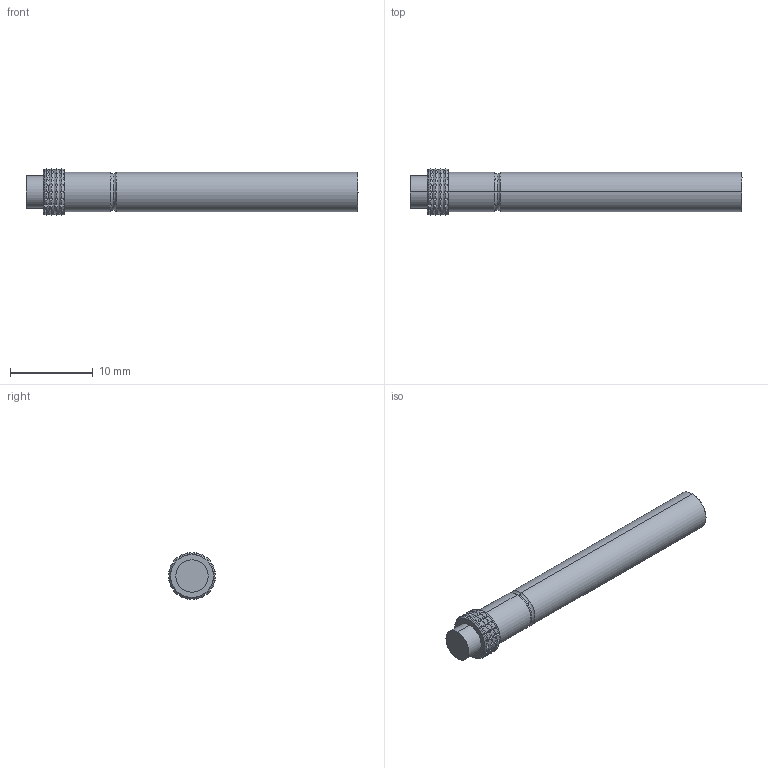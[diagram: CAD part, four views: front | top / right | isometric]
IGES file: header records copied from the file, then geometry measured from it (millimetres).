
Start section: SolidWorks IGES file using analytic representation for surfaces
Global section: file name: O:\PYLON\IGES FILES\P4301\P4301-1F REC'D.IGS; native system: SolidWorks 2015; preprocessor: SolidWorks 2015; author: kgolden; date: 171020.121422; units: inch
Bounding box: 40.21 x 5.7 x 5.7 mm (x, y, z)
Surface area: 1161.4 mm2 (no closed solid volume)
Topology: 0 solids, 0 shells, 370 faces, 1997 edges, 1997 vertices
Faces by surface type: revolution 193, bspline 177
